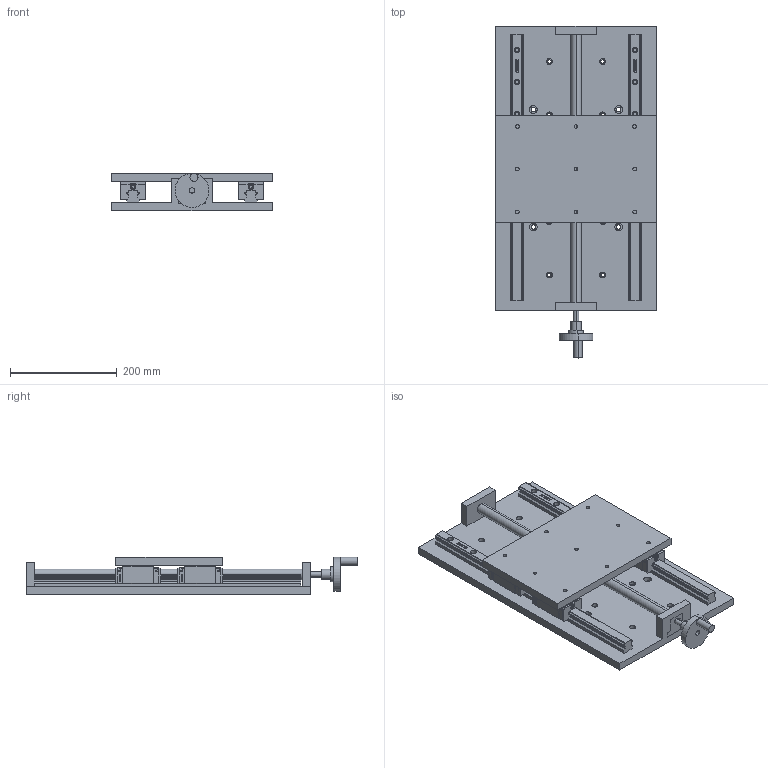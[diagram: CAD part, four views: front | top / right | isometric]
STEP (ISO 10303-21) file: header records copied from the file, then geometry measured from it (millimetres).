
FILE_DESCRIPTION (( 'STEP AP214' ), '1' );
FILE_NAME ('PT300-300.STEP', '2022-09-18T06:04:20', ( '' ), ( '' ), 'SwSTEP 2.0', 'SolidWorks 2017', '' );
FILE_SCHEMA (( 'AUTOMOTIVE_DESIGN' ));
Length unit declared in the file: millimetre
Products named in the file (12): 34320001; HGH25CA2R300Z0C_GW202204023669; HGH25C__X2_53F35C01_X0__temp; HGH25C__X2_5DE65C01_X0__temp; M6H; 忒謫; 醱啣; 菁啣-300; HGR25_temp-300; 標踡輸; 標踡; PT300-300
Assembly tree (12 placements, depth 3):
  PT300-300
    菁啣-300
    醱啣
    HGH25CA2R300Z0C_GW202204023669  x2
      HGR25_temp-300
      HGH25C__X2_53F35C01_X0__temp
      M6H
      HGH25C__X2_5DE65C01_X0__temp
      34320001
    標踡
      標踡輸
      忒謫
Bounding box: 300 x 622.1 x 70.06 mm (x, y, z)
Volume: 4431586.5 mm3; surface area: 769479.8 mm2
Topology: 31 solids, 33 shells, 2836 faces, 7969 edges, 5256 vertices
Faces by surface type: plane 1880, cylinder 766, bspline 126, cone 56, torus 8
Entity records: 64442 total; most frequent: CARTESIAN_POINT 10046, ORIENTED_EDGE 8278, DIRECTION 7777, EDGE_CURVE 4139, LINE 3041, VECTOR 3041, VERTEX_POINT 2745, AXIS2_PLACEMENT_3D 2368
